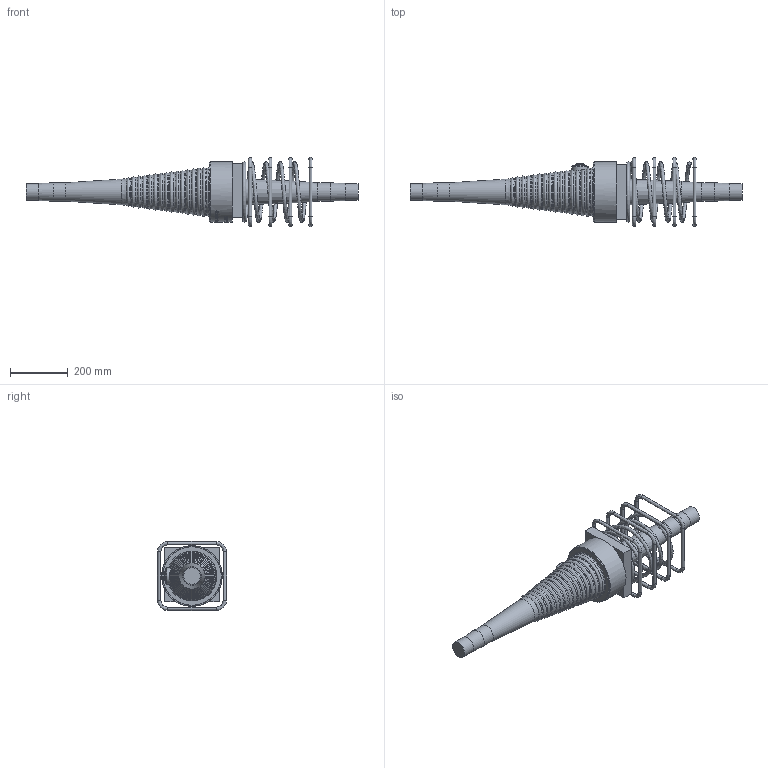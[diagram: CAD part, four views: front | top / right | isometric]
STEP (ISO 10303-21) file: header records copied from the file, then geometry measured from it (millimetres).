
FILE_DESCRIPTION(/* description */ (''),/* implementation_level */ '2;1');
FILE_NAME(/* name */ 'Z:\04 Publications\05 Give-out\BBR\6_3D_Models\BBR VT CONA CMI\BBR VT CONA CMI SP\00606\BBR VT CONA CMI SP 606_Couler K Assembly_CS-34,28.stp',/* time_stamp */ '2017-05-10T08:43:42+02:00',/* author */ ('IP'),/* organization */ (''),/* preprocessor_version */ 'ST-DEVELOPER v16.1',/* originating_system */ 'Autodesk Inventor 2016',/* authorisation */ '');
FILE_SCHEMA (('AUTOMOTIVE_DESIGN { 1 0 10303 214 3 1 1 }'));
Length unit declared in the file: millimetre
Products named in the file (1): BBR VT CONA CMI SP 606_Couler K Assembly_CS-34,28
Bounding box: 1152.87 x 240 x 240 mm (x, y, z)
Volume: 11976279.3 mm3; surface area: 686295.6 mm2
Topology: 6 solids, 6 shells, 848 faces, 2198 edges, 1420 vertices
Faces by surface type: bspline 410, plane 252, cylinder 87, torus 70, cone 17, sphere 12
Full cylindrical faces by diameter (mm): 12 x16, 34 x1, 57 x1, 59 x2, 64 x2, 203 x1, 210 x1
Entity records: 37545 total; most frequent: CARTESIAN_POINT 19490, ORIENTED_EDGE 4186, DIRECTION 2557, EDGE_CURVE 2091, VERTEX_POINT 1414, EDGE_LOOP 1017, LINE 863, VECTOR 863
